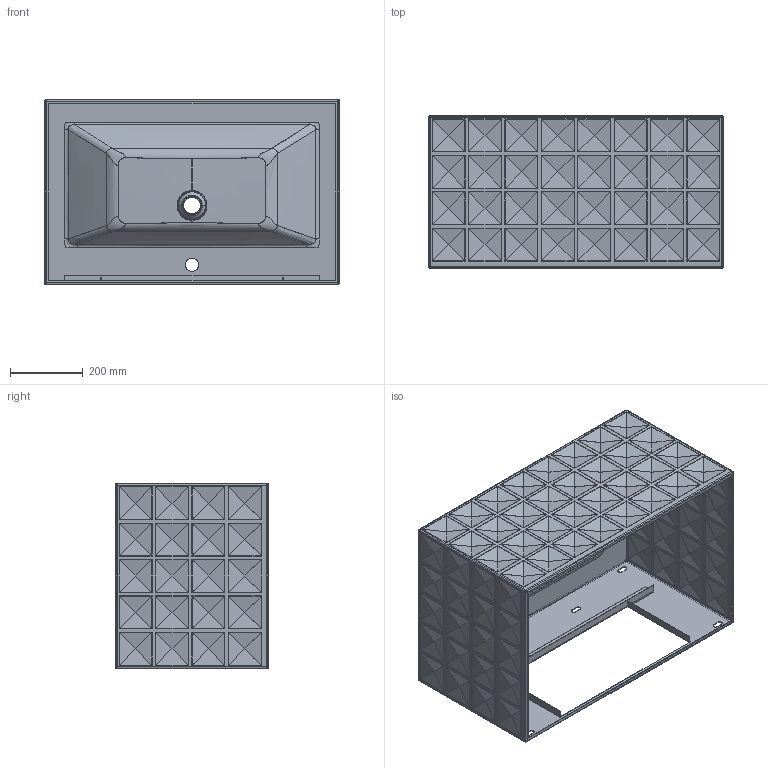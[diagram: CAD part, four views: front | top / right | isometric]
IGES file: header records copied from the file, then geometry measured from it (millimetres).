
Start section: SolidWorks IGES file using analytic representation for surfaces
Global section: file name: J:\zeichng\Produktdaten Homepage\3D_IGES\BE3C_Loft_Ornament_A230SWV4A.IGS; native system: SolidWorks 2017; preprocessor: SolidWorks 2017; author: Stratmann; date: 170619.100010; units: millimetre
Bounding box: 810 x 420 x 510 mm (x, y, z)
Surface area: 3031536.9 mm2 (no closed solid volume)
Topology: 0 solids, 0 shells, 748 faces, 4507 edges, 4499 vertices
Faces by surface type: bspline 692, revolution 56
